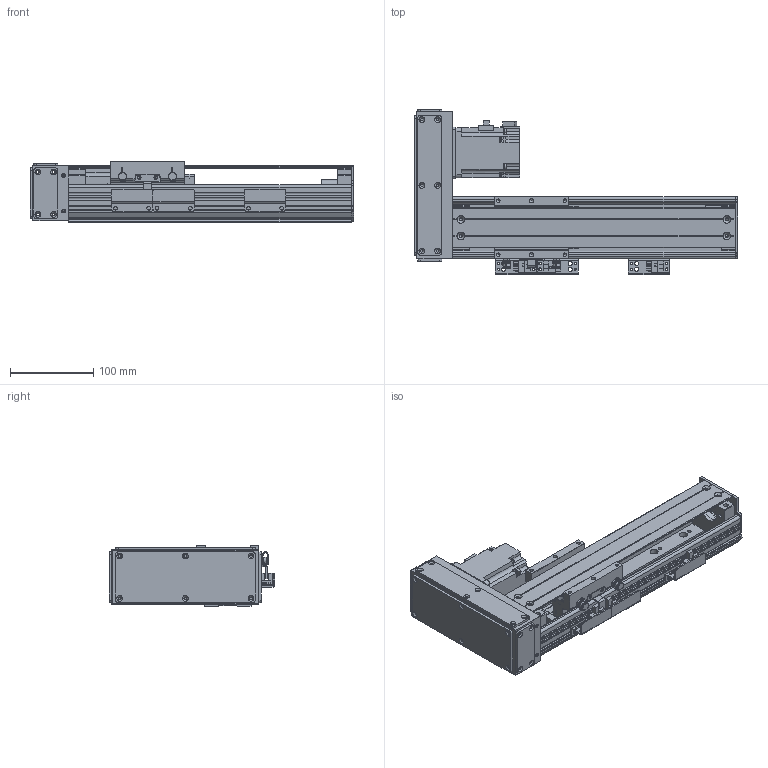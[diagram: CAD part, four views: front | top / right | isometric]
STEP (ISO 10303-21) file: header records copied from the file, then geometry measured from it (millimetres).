
FILE_DESCRIPTION(/* description */ (''),/* implementation_level */ '2;1');
FILE_NAME(/* name */ '\\192.168.0.160\disk1\HAN SHIN Master\B-설계부문\C-표준\B-2024년\BC02-표준도면\+로봇 개선표준도면\표준 승인도 작업 폴더\3D\HG75\HG75병렬\좌병렬\HG75-L20-N1B-0150-R10.stp',/* time_stamp */ '2024-02-02T08:51:15+09:00',/* author */ ('User'),/* organization */ (''),/* preprocessor_version */ 'ST-DEVELOPER v18.1',/* originating_system */ 'Autodesk Inventor 2022',/* authorisation */ '');
FILE_SCHEMA (('AUTOMOTIVE_DESIGN { 1 0 10303 214 3 1 1 }'));
Products named in the file (25): HG75-L20-N1B-0500-R10 - 간소화; BASE; HR75 FRONT BLOCK; HR75 REAR COVER-TENTION; HR75 TENSION REAR BLOCK; HG3UPCOV001; H 15F_BLOCK; HR65,75 SENSOR DOG; HG90STOPPER - 20L; HG90STOPPER - 27L; MOTOR PLATE-200W(MITSUBISHI); HC75-LR-MOTOR PLATE(200W)-사출; 화살표; HR75-LR-BELT COVER(200W); HR75-BELT COVER-COVER2; HR75-BELT COVER-COVER; hg-kr23_; HR65-BELT COVER-COVER3; hsr_ftht_A-M6F_grease_nipple_joint; NIPPLE CAP(신규); M-5HL-4; HR75 W TABLE; LMKE1520 NUT; SENSOR BRK(EE-SX674A); EE_SX674A
Assembly tree (32 placements, depth 2):
  HG75-L20-N1B-0500-R10 - 간소화
    BASE
    HR75 FRONT BLOCK
    HR75 REAR COVER-TENTION
    SENSOR BRK(EE-SX674A)  x3
    EE_SX674A  x3
    HR75 TENSION REAR BLOCK
    HG3UPCOV001
    H 15F_BLOCK
    HR65,75 SENSOR DOG
    HG90STOPPER - 20L
    HG90STOPPER - 27L
    MOTOR PLATE-200W(MITSUBISHI)
    HC75-LR-MOTOR PLATE(200W)-사출
    화살표  x2
    HR75-LR-BELT COVER(200W)
    HR75-BELT COVER-COVER2
    HR75-BELT COVER-COVER
    HR65-BELT COVER-COVER3  x2
    hg-kr23_
    hsr_ftht_A-M6F_grease_nipple_joint  x2
    NIPPLE CAP(신규)  x2
    M-5HL-4
    HR75 W TABLE
    LMKE1520 NUT
Bounding box: 389 x 199 x 73 mm (x, y, z)
Volume: 1091166.4 mm3; surface area: 460217.5 mm2
Topology: 32 solids, 32 shells, 3087 faces, 8522 edges, 5629 vertices
Faces by surface type: plane 2253, cylinder 649, cone 141, sphere 24, torus 12, bspline 8
Full cylindrical faces by diameter (mm): 1.8 x1, 2 x4, 2.013 x2, 2.459 x16, 2.5 x2, 3 x8, 3.242 x51, 3.4 x20, 3.5 x6, 4.134 x42, 4.5 x22, 4.917 x5, 5 x31, 5.5 x26, 5.6 x10, 5.8 x4, 5.9 x8, 6 x6, 6.5 x5, 7 x1, 8 x1, 9.5 x22, 14 x1, 15 x3, 17 x1, 20 x1, 25 x2, 28 x1, 32 x2, 33.7 x1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
Entity records: 91267 total; most frequent: CARTESIAN_POINT 16791, ORIENTED_EDGE 15418, DIRECTION 14654, EDGE_CURVE 7709, LINE 6248, VECTOR 6248, VERTEX_POINT 5130, AXIS2_PLACEMENT_3D 4203
